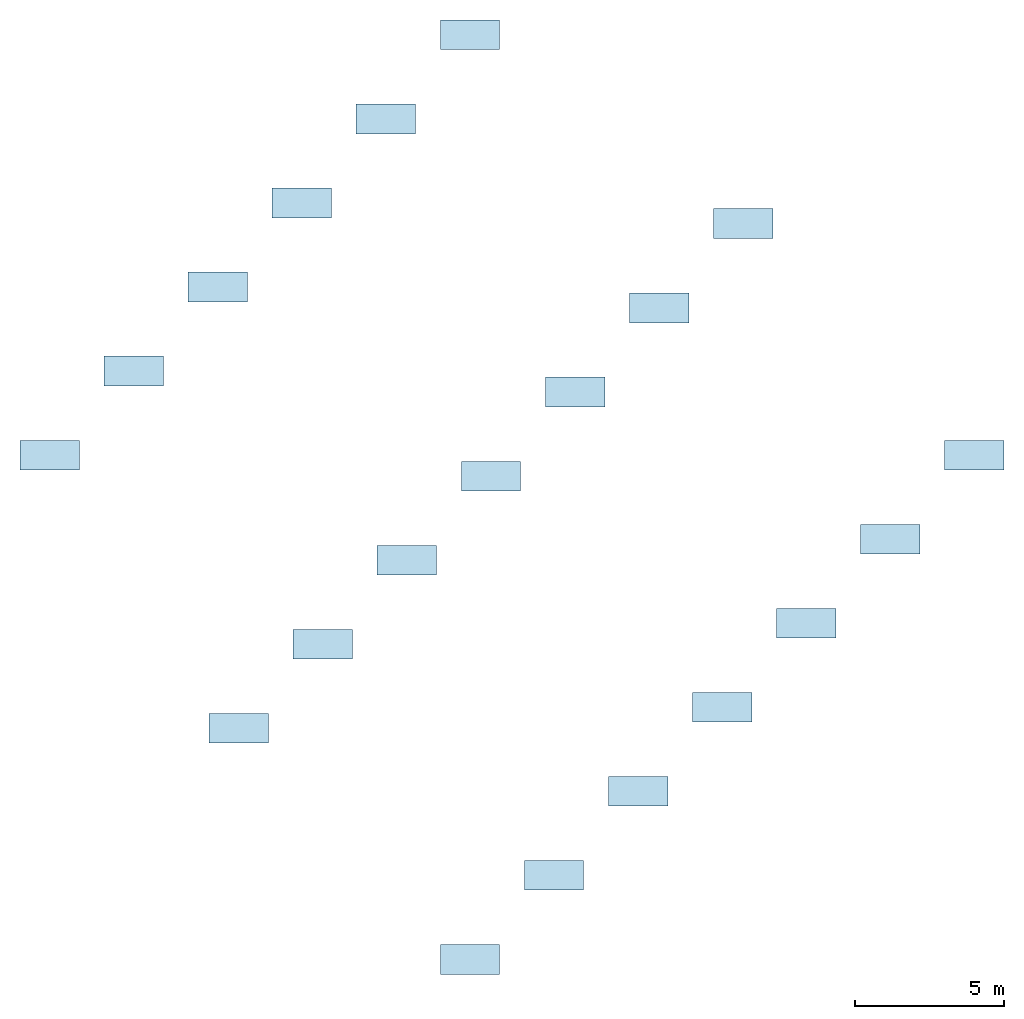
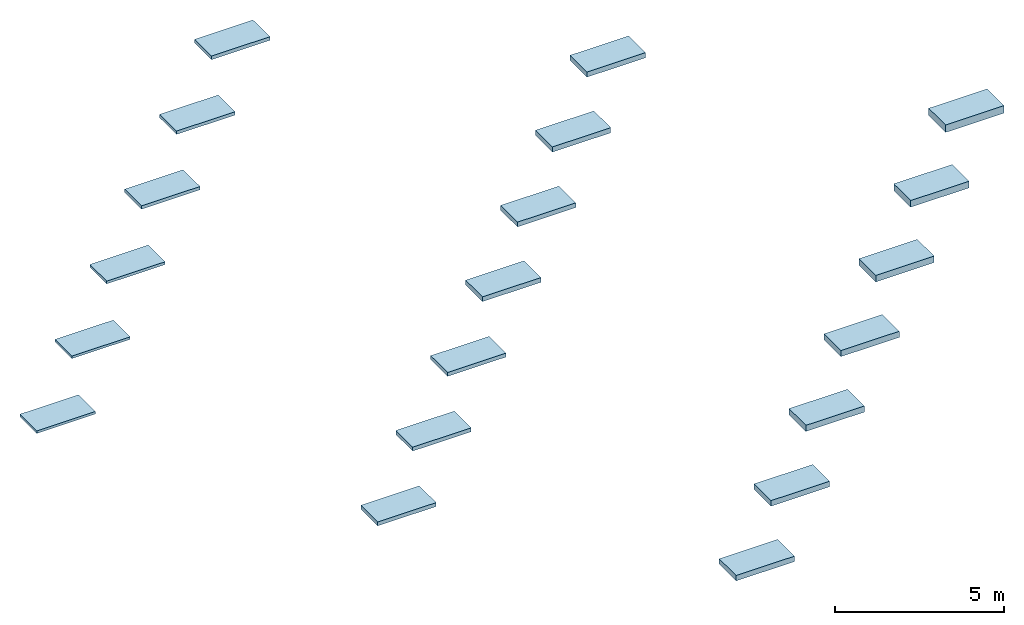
# One storey: 20 slabs, 20 elements without a shape of their own.
"""IFC2X3 building model written with IfcOpenShell, lengths in millimetres."""

import ifcopenshell
import ifcopenshell.guid

model = None  # the IFC model being written
_history = None  # IfcOwnerHistory: only IFC2X3 demands one
_inside = {}  # id of a spatial element -> (the spatial element, [elements in it])
_under = {}  # id of a project, library or spatial element -> (it, [spatial elements below it])
_declared = {}  # id of a project -> (the project, [libraries it declares])
_typed = {}  # id of a type object -> (the type object, [elements of that type])
_made_of = {}  # id of a material, layer set ... -> (it, [elements and type objects made of it])


def new_model(schema):
    """Start an empty IFC model of exactly this schema.

    Asked for "IFC4X3", IfcOpenShell would pick the latest addendum, in which some entities
    have other attributes; the version numbers below select the first issue.
    IFC2X3 requires an IfcOwnerHistory on every rooted entity: one is made here for all.
    """
    global model, _history
    if schema == "IFC4X3":
        model = ifcopenshell.file(schema_version=(4, 3, 0, 0))
    else:
        model = ifcopenshell.file(schema=schema)
    _inside.clear()
    _under.clear()
    _declared.clear()
    _typed.clear()
    _made_of.clear()
    _history = None
    if model.schema == "IFC2X3":
        org = make("IfcOrganization", Name="unknown")
        user = make(
            "IfcPersonAndOrganization",
            ThePerson=make("IfcPerson", FamilyName="unknown"),
            TheOrganization=org,
        )
        app = make(
            "IfcApplication",
            ApplicationDeveloper=org,
            Version="unknown",
            ApplicationFullName="unknown",
            ApplicationIdentifier="unknown",
        )
        _history = make(
            "IfcOwnerHistory",
            OwningUser=user,
            OwningApplication=app,
            ChangeAction="ADDED",
            CreationDate=0,
        )
    return model


def make(cls, **values):
    """One entity of the class cls with the attributes given. An attribute that is None is left unset."""
    return model.create_entity(
        cls, **{name: value for name, value in values.items() if value is not None}
    )


def entity(cls, *values):
    """Any entity or typed value of the class cls, its attributes in the order of the schema. None: left unset."""
    e = model.create_entity(cls)
    for i, value in enumerate(values):
        if value is not None:
            e[i] = value
    return e


def rooted(cls, **values):
    """An entity with a GlobalId (a new one), such as an element, a storey or a relation."""
    return make(cls, GlobalId=ifcopenshell.guid.new(), OwnerHistory=_history, **values)


def si_unit(unit_type, name, prefix=None):
    """IfcSIUnit, for example si_unit("LENGTHUNIT", "METRE", prefix="MILLI")."""
    return make("IfcSIUnit", UnitType=unit_type, Prefix=prefix, Name=name)


def converted_unit(unit_type, name, factor, base, dimensions=None, offset=None):
    """IfcConversionBasedUnit, such as the inch: factor (a typed value) times the base unit."""
    return make(
        "IfcConversionBasedUnit"
        if offset is None
        else "IfcConversionBasedUnitWithOffset",
        ConversionOffset=offset,
        Dimensions=None
        if dimensions is None
        else entity("IfcDimensionalExponents", *dimensions),
        UnitType=unit_type,
        Name=name,
        ConversionFactor=make(
            "IfcMeasureWithUnit", ValueComponent=factor, UnitComponent=base
        ),
    )


def derived_unit(unit_type, elements):
    """IfcDerivedUnit: a product of units, each with its exponent."""
    return make(
        "IfcDerivedUnit",
        Elements=[
            make("IfcDerivedUnitElement", Unit=unit, Exponent=power)
            for unit, power in elements
        ],
        UnitType=unit_type,
    )


def assignment(units):
    """IfcUnitAssignment: the units of a project."""
    return None if units is None else make("IfcUnitAssignment", Units=units)


def point(xyz):
    """IfcCartesianPoint."""
    return None if xyz is None else make("IfcCartesianPoint", Coordinates=xyz)


def direction(xyz):
    """IfcDirection."""
    return None if xyz is None else make("IfcDirection", DirectionRatios=xyz)


def frame(location, z_axis=None, x_axis=None):
    """IfcAxis2Placement3D, a coordinate frame: its origin and axes. An axis left out is left unset."""
    return make(
        "IfcAxis2Placement3D",
        Location=point(location),
        Axis=direction(z_axis),
        RefDirection=direction(x_axis),
    )


def frame_2d(location, x_axis=None):
    """IfcAxis2Placement2D, a coordinate frame in the plane: its origin and x axis."""
    return make(
        "IfcAxis2Placement2D", Location=point(location), RefDirection=direction(x_axis)
    )


def origin():
    """The frame at (0, 0, 0) with its axes left unset."""
    return frame((0.0, 0.0, 0.0))


def origin_2d_with_axis():
    """The frame at (0, 0) in the plane with the x axis (1, 0) written out."""
    return frame_2d((0.0, 0.0), x_axis=(1.0, 0.0))


def place(relative_to, where):
    """IfcLocalPlacement: puts the frame where relative to a parent placement (None: the world)."""
    return make(
        "IfcLocalPlacement", PlacementRelTo=relative_to, RelativePlacement=where
    )


def context(
    kind, dimensions, precision=None, world=None, true_north=None, identifier=None
):
    """IfcGeometricRepresentationContext, for example the 3D "Model" context."""
    return make(
        "IfcGeometricRepresentationContext",
        ContextIdentifier=identifier,
        ContextType=kind,
        CoordinateSpaceDimension=dimensions,
        Precision=precision,
        WorldCoordinateSystem=world,
        TrueNorth=true_north,
    )


def subcontext(parent, identifier, kind, view, scale=None):
    """IfcGeometricRepresentationSubContext, for example "Body" below "Model"."""
    return make(
        "IfcGeometricRepresentationSubContext",
        ContextIdentifier=identifier,
        ContextType=kind,
        ParentContext=parent,
        TargetScale=scale,
        TargetView=view,
    )


def project(units=None, contexts=None):
    """IfcProject with its units and contexts."""
    return rooted(
        "IfcProject",
        Name="project",
        RepresentationContexts=contexts,
        UnitsInContext=assignment(units),
    )


def spatial(cls, under=None, at=None, **own):
    """A site, building, storey or space (cls), placed at a placement, below another one or the project."""
    s = rooted(cls, ObjectPlacement=at, **own)
    if under is not None:
        _under.setdefault(under.id(), (under, []))[1].append(s)
    return s


def profile(cls, at=None, kind="AREA", **sizes):
    """A parametric profile (cls). Its sizes go by their IFC names, for example OverallWidth=200.0."""
    return make(cls, ProfileType=kind, Position=at, **sizes)


def rectangle(**sizes):
    """IfcRectangleProfileDef."""
    return profile("IfcRectangleProfileDef", **sizes)


def extrude(swept, where, along, depth):
    """IfcExtrudedAreaSolid: the profile swept, set in the frame where, extruded along a direction by depth."""
    return make(
        "IfcExtrudedAreaSolid",
        SweptArea=swept,
        Position=where,
        ExtrudedDirection=direction(along),
        Depth=depth,
    )


def shape(context_of_items, identifier, shape_type, items):
    """IfcShapeRepresentation: the items that make up one representation, for example the "Body"."""
    return make(
        "IfcShapeRepresentation",
        ContextOfItems=context_of_items,
        RepresentationIdentifier=identifier,
        RepresentationType=shape_type,
        Items=items,
    )


def material(Name=None, Category=None):
    """IfcMaterial."""
    return make("IfcMaterial", Name=Name, Category=Category)


def layer(
    of_material, thickness, ventilated=None, Name=None, Category=None, Priority=None
):
    """IfcMaterialLayer: one layer of a wall or slab, of a material (None: an air gap)."""
    return make(
        "IfcMaterialLayer",
        Material=of_material,
        LayerThickness=thickness,
        IsVentilated=ventilated,
        Name=Name,
        Category=Category,
        Priority=Priority,
    )


def layer_set(layers, Name=None):
    """IfcMaterialLayerSet."""
    return make("IfcMaterialLayerSet", MaterialLayers=layers, LayerSetName=Name)


def made_of(thing, what):
    """Note that an element or type object is made of a material, layer set ...; save() writes the relation."""
    if what is not None:
        _made_of.setdefault(what.id(), (what, []))[1].append(thing)
    return thing


def element(
    cls,
    number,
    at=None,
    inside=None,
    cuts=None,
    type_object=None,
    material=None,
    context=None,
    identifier="Body",
    shape_type=None,
    held_by="IfcProductDefinitionShape",
    body=None,
    shapes=None,
    **own,
):
    """One element of the class cls, such as IfcWall. Its Tag is "e" and its number.

    at: its placement. inside: the storey or other place that contains it. cuts: it is an
    opening in that element (IfcRelVoidsElement). A single representation is given by context,
    identifier, shape_type and body (its items); several are given by shapes. held_by: the class
    of the entity that holds the representations. save() writes the other relations.
    """
    e = rooted(cls, Tag="e%d" % number, ObjectPlacement=at, **own)
    if body is not None:
        shapes = [shape(context, identifier, shape_type, body)]
    if shapes is not None:
        e.Representation = make(held_by, Representations=shapes)
    if inside is not None:
        _inside.setdefault(inside.id(), (inside, []))[1].append(e)
    if cuts is not None:
        rooted(
            "IfcRelVoidsElement", RelatingBuildingElement=cuts, RelatedOpeningElement=e
        )
    if type_object is not None:
        _typed.setdefault(type_object.id(), (type_object, []))[1].append(e)
    return made_of(e, material)


def aggregate(whole, parts):
    """IfcRelAggregates: a whole, such as a stair, and the parts it consists of."""
    return rooted("IfcRelAggregates", RelatingObject=whole, RelatedObjects=parts)


def save(model, path):
    """Write the relations noted so far, then the file.

    IfcRelAggregates (storeys below a building ...), IfcRelContainedInSpatialStructure (elements
    in a storey), IfcRelDefinesByType, IfcRelAssociatesMaterial and IfcRelDeclares: one each for
    every whole, place, type object, material and project.
    """
    for whole, parts in _under.values():
        aggregate(whole, parts)
    for where, things in _inside.values():
        rooted(
            "IfcRelContainedInSpatialStructure",
            RelatedElements=things,
            RelatingStructure=where,
        )
    for kind, things in _typed.values():
        rooted("IfcRelDefinesByType", RelatedObjects=things, RelatingType=kind)
    for what, things in _made_of.values():
        rooted("IfcRelAssociatesMaterial", RelatedObjects=things, RelatingMaterial=what)
    for by, libraries in _declared.values():
        rooted("IfcRelDeclares", RelatingContext=by, RelatedDefinitions=libraries)
    model.write(path)


model = new_model("IFC2X3")

# Units and contexts
model_context = context("Model", 3, precision=0.01, world=origin(), true_north=direction((6.12303176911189e-17, 1.0)))
context_of_model = context(None, 3, precision=0.01, world=origin(), true_north=direction((6.12303176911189e-17, 1.0)))
body_context = subcontext(model_context, "Body", "Model", "MODEL_VIEW")
ifc_project = project(units=[si_unit("LENGTHUNIT", "METRE", prefix="MILLI"), si_unit("AREAUNIT", "SQUARE_METRE"), si_unit("VOLUMEUNIT", "CUBIC_METRE"), converted_unit("PLANEANGLEUNIT", "DEGREE", entity("IfcRatioMeasure", 0.0174532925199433), si_unit("PLANEANGLEUNIT", "RADIAN"), dimensions=[0, 0, 0, 0, 0, 0, 0]), si_unit("MASSUNIT", "GRAM", prefix="KILO"), derived_unit("MASSDENSITYUNIT", [(si_unit("MASSUNIT", "GRAM", prefix="KILO"), 1), (si_unit("LENGTHUNIT", "METRE"), -3)]), si_unit("TIMEUNIT", "SECOND"), si_unit("FREQUENCYUNIT", "HERTZ"), si_unit("THERMODYNAMICTEMPERATUREUNIT", "DEGREE_CELSIUS"), derived_unit("THERMALTRANSMITTANCEUNIT", [(si_unit("MASSUNIT", "GRAM", prefix="KILO"), 1), (si_unit("THERMODYNAMICTEMPERATUREUNIT", "KELVIN"), -1), (si_unit("TIMEUNIT", "SECOND"), -3)]), derived_unit("VOLUMETRICFLOWRATEUNIT", [(si_unit("LENGTHUNIT", "METRE"), 3), (si_unit("TIMEUNIT", "SECOND"), -1)]), si_unit("ELECTRICCURRENTUNIT", "AMPERE"), si_unit("ELECTRICVOLTAGEUNIT", "VOLT"), si_unit("POWERUNIT", "WATT"), si_unit("FORCEUNIT", "NEWTON", prefix="KILO"), si_unit("ILLUMINANCEUNIT", "LUX"), si_unit("LUMINOUSFLUXUNIT", "LUMEN"), si_unit("LUMINOUSINTENSITYUNIT", "CANDELA"), derived_unit("USERDEFINED", [(si_unit("MASSUNIT", "GRAM", prefix="KILO"), -1), (si_unit("LENGTHUNIT", "METRE"), -2), (si_unit("TIMEUNIT", "SECOND"), 3), (si_unit("LUMINOUSFLUXUNIT", "LUMEN"), 1)]), derived_unit("LINEARVELOCITYUNIT", [(si_unit("LENGTHUNIT", "METRE"), 1), (si_unit("TIMEUNIT", "SECOND"), -1)]), si_unit("PRESSUREUNIT", "PASCAL"), derived_unit("USERDEFINED", [(si_unit("LENGTHUNIT", "METRE"), -2), (si_unit("MASSUNIT", "GRAM", prefix="KILO"), 1), (si_unit("TIMEUNIT", "SECOND"), -2)])], contexts=[model_context, context_of_model])

# Site, building, storey
site_placement = place(None, origin())
site = spatial("IfcSite", under=ifc_project, at=site_placement, Name="Default", CompositionType="ELEMENT")
building_placement = place(site_placement, origin())
building = spatial("IfcBuilding", under=site, at=building_placement, CompositionType="ELEMENT")
storey_placement = place(building_placement, frame((0.0, 0.0, 2500.0)))
storey = spatial("IfcBuildingStorey", under=building, at=storey_placement, Name="Lengte", CompositionType="ELEMENT", Elevation=2500.0)

# Roof, slab
roof_1_placement = place(storey_placement, frame((-3133.09589603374, 4860.807761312, 0.0)))
roof_1 = element("IfcRoof", 1, at=roof_1_placement, inside=storey, Name="Basic Roof:NLRS_27_RO_Naturoll 035_90x380x7600mm", ObjectType="Basic Roof:NLRS_27_RO_Naturoll 035_90x380x7600mm", ShapeType="NOTDEFINED")
ifc_material = material(Name="Knauf Insulation_Ecose® glaswol_naturoll 035")
ifc_layer_1 = layer(ifc_material, 90.0)
ifc_layer_set_1 = layer_set([ifc_layer_1], Name="Basic Roof:NLRS_27_RO_Naturoll 035_90x380x7600mm")
slab_1_placement = place(roof_1_placement, origin())
slab_1 = element("IfcSlab", 2, at=slab_1_placement, material=ifc_layer_set_1, Name="Basic Roof:NLRS_27_RO_Naturoll 035_90x380x7600mm", ObjectType="Basic Roof:NLRS_27_RO_Naturoll 035_90x380x7600mm", PredefinedType="ROOF", context=body_context, shape_type="SweptSolid", body=[
    extrude(rectangle(XDim=2000.0, YDim=1000.0, at=frame_2d((0.0, -2.55795384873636e-13), x_axis=(1.0, 0.0))), frame((1000.0, 500.0, 0.0)), (0.0, 0.0, 1.0), 90.0000000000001),
])
aggregate(roof_1, [slab_1])

roof_2_placement = place(storey_placement, frame((-304.668771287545, 7689.23488605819, 0.0)))
roof_2 = element("IfcRoof", 3, at=roof_2_placement, inside=storey, Name="Basic Roof:NLRS_27_RO_Naturoll 035_90x580x7600mm", ObjectType="Basic Roof:NLRS_27_RO_Naturoll 035_90x580x7600mm", ShapeType="NOTDEFINED")
ifc_layer_2 = layer(ifc_material, 90.0)
ifc_layer_set_2 = layer_set([ifc_layer_2], Name="Basic Roof:NLRS_27_RO_Naturoll 035_90x580x7600mm")
slab_2_placement = place(roof_2_placement, origin())
slab_2 = element("IfcSlab", 4, at=slab_2_placement, material=ifc_layer_set_2, Name="Basic Roof:NLRS_27_RO_Naturoll 035_90x580x7600mm", ObjectType="Basic Roof:NLRS_27_RO_Naturoll 035_90x580x7600mm", PredefinedType="ROOF", context=body_context, shape_type="SweptSolid", body=[
    extrude(rectangle(XDim=2000.0, YDim=1000.0, at=origin_2d_with_axis()), frame((1000.0, 500.0, 0.0)), (0.0, 0.0, 1.0), 90.0000000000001),
])
aggregate(roof_2, [slab_2])

roof_3_placement = place(storey_placement, frame((2523.75835345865, 10517.6620108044, 0.0)))
roof_3 = element("IfcRoof", 5, at=roof_3_placement, inside=storey, Name="Basic Roof:NLRS_27_RO_Naturoll 035_100x580x7400mm", ObjectType="Basic Roof:NLRS_27_RO_Naturoll 035_100x580x7400mm", ShapeType="NOTDEFINED")
ifc_layer_3 = layer(ifc_material, 100.0)
ifc_layer_set_3 = layer_set([ifc_layer_3], Name="Basic Roof:NLRS_27_RO_Naturoll 035_100x580x7400mm")
slab_3_placement = place(roof_3_placement, origin())
slab_3 = element("IfcSlab", 6, at=slab_3_placement, material=ifc_layer_set_3, Name="Basic Roof:NLRS_27_RO_Naturoll 035_100x580x7400mm", ObjectType="Basic Roof:NLRS_27_RO_Naturoll 035_100x580x7400mm", PredefinedType="ROOF", context=body_context, shape_type="SweptSolid", body=[
    extrude(rectangle(XDim=2000.0, YDim=1000.0, at=origin_2d_with_axis()), frame((1000.0, 500.0, 0.0)), (0.0, 0.0, 1.0), 100.0),
])
aggregate(roof_3, [slab_3])

roof_4_placement = place(storey_placement, frame((5352.18547820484, 13346.0891355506, 0.0)))
roof_4 = element("IfcRoof", 7, at=roof_4_placement, inside=storey, Name="Basic Roof:NLRS_27_RO_Naturoll 035_120x380x6200mm", ObjectType="Basic Roof:NLRS_27_RO_Naturoll 035_120x380x6200mm", ShapeType="NOTDEFINED")
ifc_layer_4 = layer(ifc_material, 120.0)
ifc_layer_set_4 = layer_set([ifc_layer_4], Name="Basic Roof:NLRS_27_RO_Naturoll 035_120x380x6200mm")
slab_4_placement = place(roof_4_placement, origin())
slab_4 = element("IfcSlab", 8, at=slab_4_placement, material=ifc_layer_set_4, Name="Basic Roof:NLRS_27_RO_Naturoll 035_120x380x6200mm", ObjectType="Basic Roof:NLRS_27_RO_Naturoll 035_120x380x6200mm", PredefinedType="ROOF", context=body_context, shape_type="SweptSolid", body=[
    extrude(rectangle(XDim=2000.0, YDim=1000.0, at=frame_2d((5.6843418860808e-13, 0.0), x_axis=(1.0, 0.0))), frame((1000.0, 500.0, 0.0)), (0.0, 0.0, 1.0), 120.0),
])
aggregate(roof_4, [slab_4])

roof_5_placement = place(storey_placement, frame((8180.61260295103, 16174.5162602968, 0.0)))
roof_5 = element("IfcRoof", 9, at=roof_5_placement, inside=storey, Name="Basic Roof:NLRS_27_RO_Naturoll 035_120x580x6200mm", ObjectType="Basic Roof:NLRS_27_RO_Naturoll 035_120x580x6200mm", ShapeType="NOTDEFINED")
ifc_layer_5 = layer(ifc_material, 120.0)
ifc_layer_set_5 = layer_set([ifc_layer_5], Name="Basic Roof:NLRS_27_RO_Naturoll 035_120x580x6200mm")
slab_5_placement = place(roof_5_placement, origin())
slab_5 = element("IfcSlab", 10, at=slab_5_placement, material=ifc_layer_set_5, Name="Basic Roof:NLRS_27_RO_Naturoll 035_120x580x6200mm", ObjectType="Basic Roof:NLRS_27_RO_Naturoll 035_120x580x6200mm", PredefinedType="ROOF", context=body_context, shape_type="SweptSolid", body=[
    extrude(rectangle(XDim=2000.0, YDim=1000.0, at=frame_2d((5.6843418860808e-13, 0.0), x_axis=(1.0, 0.0))), frame((1000.0, 500.0, 0.0)), (0.0, 0.0, 1.0), 120.0),
])
aggregate(roof_5, [slab_5])

roof_6_placement = place(storey_placement, frame((11009.0397276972, 19002.9433850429, 0.0)))
roof_6 = element("IfcRoof", 11, at=roof_6_placement, inside=storey, Name="Basic Roof:NLRS_27_RO_Naturoll 035_130x590x5500mm", ObjectType="Basic Roof:NLRS_27_RO_Naturoll 035_130x590x5500mm", ShapeType="NOTDEFINED")
ifc_layer_6 = layer(ifc_material, 130.0)
ifc_layer_set_6 = layer_set([ifc_layer_6], Name="Basic Roof:NLRS_27_RO_Naturoll 035_130x590x5500mm")
slab_6_placement = place(roof_6_placement, origin())
slab_6 = element("IfcSlab", 12, at=slab_6_placement, material=ifc_layer_set_6, Name="Basic Roof:NLRS_27_RO_Naturoll 035_130x590x5500mm", ObjectType="Basic Roof:NLRS_27_RO_Naturoll 035_130x590x5500mm", PredefinedType="ROOF", context=body_context, shape_type="SweptSolid", body=[
    extrude(rectangle(XDim=2000.0, YDim=1000.0, at=frame_2d((1.08002495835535e-12, 0.0), x_axis=(1.0, 0.0))), frame((1000.0, 500.0, 0.0)), (0.0, 0.0, 1.0), 130.0),
])
aggregate(roof_6, [slab_6])

roof_7_placement = place(storey_placement, frame((3230.86513464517, -4331.58039411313, 0.0)))
roof_7 = element("IfcRoof", 13, at=roof_7_placement, inside=storey, Name="Basic Roof:NLRS_27_RO_Naturoll 035_140x380x5300mm", ObjectType="Basic Roof:NLRS_27_RO_Naturoll 035_140x380x5300mm", ShapeType="NOTDEFINED")
ifc_layer_7 = layer(ifc_material, 140.0)
ifc_layer_set_7 = layer_set([ifc_layer_7], Name="Basic Roof:NLRS_27_RO_Naturoll 035_140x380x5300mm")
slab_7_placement = place(roof_7_placement, origin())
slab_7 = element("IfcSlab", 14, at=slab_7_placement, material=ifc_layer_set_7, Name="Basic Roof:NLRS_27_RO_Naturoll 035_140x380x5300mm", ObjectType="Basic Roof:NLRS_27_RO_Naturoll 035_140x380x5300mm", PredefinedType="ROOF", context=body_context, shape_type="SweptSolid", body=[
    extrude(rectangle(XDim=2000.0, YDim=1000.0, at=origin_2d_with_axis()), frame((1000.0, 500.0, 0.0)), (0.0, 0.0, 1.0), 140.0),
])
aggregate(roof_7, [slab_7])

roof_8_placement = place(storey_placement, frame((6059.29225939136, -1503.15326936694, 0.0)))
roof_8 = element("IfcRoof", 15, at=roof_8_placement, inside=storey, Name="Basic Roof:NLRS_27_RO_Naturoll 035_140x580x5300mm", ObjectType="Basic Roof:NLRS_27_RO_Naturoll 035_140x580x5300mm", ShapeType="NOTDEFINED")
ifc_layer_8 = layer(ifc_material, 140.0)
ifc_layer_set_8 = layer_set([ifc_layer_8], Name="Basic Roof:NLRS_27_RO_Naturoll 035_140x580x5300mm")
slab_8_placement = place(roof_8_placement, origin())
slab_8 = element("IfcSlab", 16, at=slab_8_placement, material=ifc_layer_set_8, Name="Basic Roof:NLRS_27_RO_Naturoll 035_140x580x5300mm", ObjectType="Basic Roof:NLRS_27_RO_Naturoll 035_140x580x5300mm", PredefinedType="ROOF", context=body_context, shape_type="SweptSolid", body=[
    extrude(rectangle(XDim=2000.0, YDim=1000.0, at=origin_2d_with_axis()), frame((1000.0, 500.0, 0.0)), (0.0, 0.0, 1.0), 140.0),
])
aggregate(roof_8, [slab_8])

roof_9_placement = place(storey_placement, frame((8887.71938413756, 1325.27385537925, 0.0)))
roof_9 = element("IfcRoof", 17, at=roof_9_placement, inside=storey, Name="Basic Roof:NLRS_27_RO_Naturoll 035_140x600x5300mm", ObjectType="Basic Roof:NLRS_27_RO_Naturoll 035_140x600x5300mm", ShapeType="NOTDEFINED")
ifc_layer_9 = layer(ifc_material, 140.0)
ifc_layer_set_9 = layer_set([ifc_layer_9], Name="Basic Roof:NLRS_27_RO_Naturoll 035_140x600x5300mm")
slab_9_placement = place(roof_9_placement, origin())
slab_9 = element("IfcSlab", 18, at=slab_9_placement, material=ifc_layer_set_9, Name="Basic Roof:NLRS_27_RO_Naturoll 035_140x600x5300mm", ObjectType="Basic Roof:NLRS_27_RO_Naturoll 035_140x600x5300mm", PredefinedType="ROOF", context=body_context, shape_type="SweptSolid", body=[
    extrude(rectangle(XDim=2000.0, YDim=1000.0, at=origin_2d_with_axis()), frame((1000.0, 500.0, 0.0)), (0.0, 0.0, 1.0), 140.0),
])
aggregate(roof_9, [slab_9])

roof_10_placement = place(storey_placement, frame((11716.1465088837, 4153.70098012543, 0.0)))
roof_10 = element("IfcRoof", 19, at=roof_10_placement, inside=storey, Name="Basic Roof:NLRS_27_RO_Naturoll 035_170x380x4350mm", ObjectType="Basic Roof:NLRS_27_RO_Naturoll 035_170x380x4350mm", ShapeType="NOTDEFINED")
ifc_layer_10 = layer(ifc_material, 170.0)
ifc_layer_set_10 = layer_set([ifc_layer_10], Name="Basic Roof:NLRS_27_RO_Naturoll 035_170x380x4350mm")
slab_10_placement = place(roof_10_placement, origin())
slab_10 = element("IfcSlab", 20, at=slab_10_placement, material=ifc_layer_set_10, Name="Basic Roof:NLRS_27_RO_Naturoll 035_170x380x4350mm", ObjectType="Basic Roof:NLRS_27_RO_Naturoll 035_170x380x4350mm", PredefinedType="ROOF", context=body_context, shape_type="SweptSolid", body=[
    extrude(rectangle(XDim=2000.0, YDim=1000.0, at=frame_2d((1.08002495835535e-12, 0.0), x_axis=(1.0, 0.0))), frame((1000.0, 500.0, 0.0)), (0.0, 0.0, 1.0), 170.0),
])
aggregate(roof_10, [slab_10])

roof_11_placement = place(storey_placement, frame((14544.5736336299, 6982.12810487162, 0.0)))
roof_11 = element("IfcRoof", 21, at=roof_11_placement, inside=storey, Name="Basic Roof:NLRS_27_RO_Naturoll 035_170x580x4350mm", ObjectType="Basic Roof:NLRS_27_RO_Naturoll 035_170x580x4350mm", ShapeType="NOTDEFINED")
ifc_layer_11 = layer(ifc_material, 170.0)
ifc_layer_set_11 = layer_set([ifc_layer_11], Name="Basic Roof:NLRS_27_RO_Naturoll 035_170x580x4350mm")
slab_11_placement = place(roof_11_placement, origin())
slab_11 = element("IfcSlab", 22, at=slab_11_placement, material=ifc_layer_set_11, Name="Basic Roof:NLRS_27_RO_Naturoll 035_170x580x4350mm", ObjectType="Basic Roof:NLRS_27_RO_Naturoll 035_170x580x4350mm", PredefinedType="ROOF", context=body_context, shape_type="SweptSolid", body=[
    extrude(rectangle(XDim=2000.0, YDim=1000.0, at=frame_2d((1.08002495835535e-12, 0.0), x_axis=(1.0, 0.0))), frame((1000.0, 500.0, 0.0)), (0.0, 0.0, 1.0), 170.0),
])
aggregate(roof_11, [slab_11])

roof_12_placement = place(storey_placement, frame((17373.0007583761, 9810.55522961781, 0.0)))
roof_12 = element("IfcRoof", 23, at=roof_12_placement, inside=storey, Name="Basic Roof:NLRS_27_RO_Naturoll 035_185x380x4000mm", ObjectType="Basic Roof:NLRS_27_RO_Naturoll 035_185x380x4000mm", ShapeType="NOTDEFINED")
ifc_layer_12 = layer(ifc_material, 185.0)
ifc_layer_set_12 = layer_set([ifc_layer_12], Name="Basic Roof:NLRS_27_RO_Naturoll 035_185x380x4000mm")
slab_12_placement = place(roof_12_placement, origin())
slab_12 = element("IfcSlab", 24, at=slab_12_placement, material=ifc_layer_set_12, Name="Basic Roof:NLRS_27_RO_Naturoll 035_185x380x4000mm", ObjectType="Basic Roof:NLRS_27_RO_Naturoll 035_185x380x4000mm", PredefinedType="ROOF", context=body_context, shape_type="SweptSolid", body=[
    extrude(rectangle(XDim=2000.0, YDim=1000.0, at=frame_2d((1.08002495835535e-12, 0.0), x_axis=(1.0, 0.0))), frame((1000.0, 500.0, 0.0)), (0.0, 0.0, 1.0), 185.0),
])
aggregate(roof_12, [slab_12])

roof_13_placement = place(storey_placement, frame((13837.4668524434, -9281.32786241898, 0.0)))
roof_13 = element("IfcRoof", 25, at=roof_13_placement, inside=storey, Name="Basic Roof:NLRS_27_RO_Naturoll 035_200x580x3700mm", ObjectType="Basic Roof:NLRS_27_RO_Naturoll 035_200x580x3700mm", ShapeType="NOTDEFINED")
ifc_layer_13 = layer(ifc_material, 200.0)
ifc_layer_set_13 = layer_set([ifc_layer_13], Name="Basic Roof:NLRS_27_RO_Naturoll 035_200x580x3700mm")
slab_13_placement = place(roof_13_placement, origin())
slab_13 = element("IfcSlab", 26, at=slab_13_placement, material=ifc_layer_set_13, Name="Basic Roof:NLRS_27_RO_Naturoll 035_200x580x3700mm", ObjectType="Basic Roof:NLRS_27_RO_Naturoll 035_200x580x3700mm", PredefinedType="ROOF", context=body_context, shape_type="SweptSolid", body=[
    extrude(rectangle(XDim=2000.0, YDim=1000.0, at=frame_2d((1.08002495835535e-12, 0.0), x_axis=(1.0, 0.0))), frame((1000.0, 500.0, 0.0)), (0.0, 0.0, 1.0), 200.0),
])
aggregate(roof_13, [slab_13])

roof_14_placement = place(storey_placement, frame((16665.8939771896, -6452.9007376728, 0.0)))
roof_14 = element("IfcRoof", 27, at=roof_14_placement, inside=storey, Name="Basic Roof:NLRS_27_RO_Naturoll 035_220x380x3400mm", ObjectType="Basic Roof:NLRS_27_RO_Naturoll 035_220x380x3400mm", ShapeType="NOTDEFINED")
ifc_layer_14 = layer(ifc_material, 220.0)
ifc_layer_set_14 = layer_set([ifc_layer_14], Name="Basic Roof:NLRS_27_RO_Naturoll 035_220x380x3400mm")
slab_14_placement = place(roof_14_placement, origin())
slab_14 = element("IfcSlab", 28, at=slab_14_placement, material=ifc_layer_set_14, Name="Basic Roof:NLRS_27_RO_Naturoll 035_220x380x3400mm", ObjectType="Basic Roof:NLRS_27_RO_Naturoll 035_220x380x3400mm", PredefinedType="ROOF", context=body_context, shape_type="SweptSolid", body=[
    extrude(rectangle(XDim=2000.0, YDim=1000.0, at=frame_2d((1.08002495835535e-12, 0.0), x_axis=(1.0, 0.0))), frame((1000.0, 500.0, 0.0)), (0.0, 0.0, 1.0), 220.0),
])
aggregate(roof_14, [slab_14])

roof_15_placement = place(storey_placement, frame((19494.3211019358, -3624.47361292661, 0.0)))
roof_15 = element("IfcRoof", 29, at=roof_15_placement, inside=storey, Name="Basic Roof:NLRS_27_RO_Naturoll 035_220x580x3100mm", ObjectType="Basic Roof:NLRS_27_RO_Naturoll 035_220x580x3100mm", ShapeType="NOTDEFINED")
ifc_layer_15 = layer(ifc_material, 220.0)
ifc_layer_set_15 = layer_set([ifc_layer_15], Name="Basic Roof:NLRS_27_RO_Naturoll 035_220x580x3100mm")
slab_15_placement = place(roof_15_placement, origin())
slab_15 = element("IfcSlab", 30, at=slab_15_placement, material=ifc_layer_set_15, Name="Basic Roof:NLRS_27_RO_Naturoll 035_220x580x3100mm", ObjectType="Basic Roof:NLRS_27_RO_Naturoll 035_220x580x3100mm", PredefinedType="ROOF", context=body_context, shape_type="SweptSolid", body=[
    extrude(rectangle(XDim=2000.0, YDim=1000.0, at=frame_2d((2.1600499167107e-12, 0.0), x_axis=(1.0, 0.0))), frame((1000.0, 500.0, 0.0)), (0.0, 0.0, 1.0), 220.0),
])
aggregate(roof_15, [slab_15])

roof_16_placement = place(storey_placement, frame((22322.748226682, -796.046488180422, 0.0)))
roof_16 = element("IfcRoof", 31, at=roof_16_placement, inside=storey, Name="Basic Roof:NLRS_27_RO_Naturoll 035_235x580x3100mm", ObjectType="Basic Roof:NLRS_27_RO_Naturoll 035_235x580x3100mm", ShapeType="NOTDEFINED")
ifc_layer_16 = layer(ifc_material, 235.0)
ifc_layer_set_16 = layer_set([ifc_layer_16], Name="Basic Roof:NLRS_27_RO_Naturoll 035_235x580x3100mm")
slab_16_placement = place(roof_16_placement, origin())
slab_16 = element("IfcSlab", 32, at=slab_16_placement, material=ifc_layer_set_16, Name="Basic Roof:NLRS_27_RO_Naturoll 035_235x580x3100mm", ObjectType="Basic Roof:NLRS_27_RO_Naturoll 035_235x580x3100mm", PredefinedType="ROOF", context=body_context, shape_type="SweptSolid", body=[
    extrude(rectangle(XDim=2000.0, YDim=1000.0, at=frame_2d((-2.1600499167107e-12, 0.0), x_axis=(1.0, 0.0))), frame((1000.0, 500.0, 0.0)), (0.0, 0.0, 1.0), 235.0),
])
aggregate(roof_16, [slab_16])

roof_17_placement = place(storey_placement, frame((25151.1753514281, 2032.38063656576, 0.0)))
roof_17 = element("IfcRoof", 33, at=roof_17_placement, inside=storey, Name="Basic Roof:NLRS_27_RO_Naturoll 035_240x580x3100mm", ObjectType="Basic Roof:NLRS_27_RO_Naturoll 035_240x580x3100mm", ShapeType="NOTDEFINED")
ifc_layer_17 = layer(ifc_material, 240.0)
ifc_layer_set_17 = layer_set([ifc_layer_17], Name="Basic Roof:NLRS_27_RO_Naturoll 035_240x580x3100mm")
slab_17_placement = place(roof_17_placement, origin())
slab_17 = element("IfcSlab", 34, at=slab_17_placement, material=ifc_layer_set_17, Name="Basic Roof:NLRS_27_RO_Naturoll 035_240x580x3100mm", ObjectType="Basic Roof:NLRS_27_RO_Naturoll 035_240x580x3100mm", PredefinedType="ROOF", context=body_context, shape_type="SweptSolid", body=[
    extrude(rectangle(XDim=2000.0, YDim=1000.0, at=frame_2d((2.1600499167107e-12, 0.0), x_axis=(1.0, 0.0))), frame((1000.0, 500.0, 0.0)), (0.0, 0.0, 1.0), 240.0),
])
aggregate(roof_17, [slab_17])

roof_18_placement = place(storey_placement, frame((27979.6024761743, 4860.80776131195, 0.0)))
roof_18 = element("IfcRoof", 35, at=roof_18_placement, inside=storey, Name="Basic Roof:NLRS_27_RO_Naturoll 035_270x590x2600mm", ObjectType="Basic Roof:NLRS_27_RO_Naturoll 035_270x590x2600mm", ShapeType="NOTDEFINED")
ifc_layer_18 = layer(ifc_material, 270.0)
ifc_layer_set_18 = layer_set([ifc_layer_18], Name="Basic Roof:NLRS_27_RO_Naturoll 035_270x590x2600mm")
slab_18_placement = place(roof_18_placement, origin())
slab_18 = element("IfcSlab", 36, at=slab_18_placement, material=ifc_layer_set_18, Name="Basic Roof:NLRS_27_RO_Naturoll 035_270x590x2600mm", ObjectType="Basic Roof:NLRS_27_RO_Naturoll 035_270x590x2600mm", PredefinedType="ROOF", context=body_context, shape_type="SweptSolid", body=[
    extrude(rectangle(XDim=2000.0, YDim=1000.0, at=frame_2d((-2.1600499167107e-12, 0.0), x_axis=(1.0, 0.0))), frame((1000.0, 500.0, 0.0)), (0.0, 0.0, 1.0), 270.0),
])
aggregate(roof_18, [slab_18])

roof_19_placement = place(storey_placement, frame((11009.0397276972, -12109.7549871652, 0.0)))
roof_19 = element("IfcRoof", 37, at=roof_19_placement, inside=storey, Name="Basic Roof:NLRS_27_RO_Naturoll 035_195x580x3800mm", ObjectType="Basic Roof:NLRS_27_RO_Naturoll 035_195x580x3800mm", ShapeType="NOTDEFINED")
ifc_layer_19 = layer(ifc_material, 195.0)
ifc_layer_set_19 = layer_set([ifc_layer_19], Name="Basic Roof:NLRS_27_RO_Naturoll 035_195x580x3800mm")
slab_19_placement = place(roof_19_placement, origin())
slab_19 = element("IfcSlab", 38, at=slab_19_placement, material=ifc_layer_set_19, Name="Basic Roof:NLRS_27_RO_Naturoll 035_195x580x3800mm", ObjectType="Basic Roof:NLRS_27_RO_Naturoll 035_195x580x3800mm", PredefinedType="ROOF", context=body_context, shape_type="SweptSolid", body=[
    extrude(rectangle(XDim=2000.0, YDim=1000.0, at=frame_2d((1.08002495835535e-12, 0.0), x_axis=(1.0, 0.0))), frame((1000.0, 500.0, 0.0)), (0.0, 0.0, 1.0), 195.0),
])
aggregate(roof_19, [slab_19])

roof_20_placement = place(storey_placement, frame((20201.4278831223, 12653.982354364, 0.0)))
roof_20 = element("IfcRoof", 39, at=roof_20_placement, inside=storey, Name="Basic Roof:NLRS_27_RO_Naturoll 035_185x580x4000mm", ObjectType="Basic Roof:NLRS_27_RO_Naturoll 035_185x580x4000mm", ShapeType="NOTDEFINED")
ifc_layer_20 = layer(ifc_material, 185.0)
ifc_layer_set_20 = layer_set([ifc_layer_20], Name="Basic Roof:NLRS_27_RO_Naturoll 035_185x580x4000mm")
slab_20_placement = place(roof_20_placement, origin())
slab_20 = element("IfcSlab", 40, at=slab_20_placement, material=ifc_layer_set_20, Name="Basic Roof:NLRS_27_RO_Naturoll 035_185x580x4000mm", ObjectType="Basic Roof:NLRS_27_RO_Naturoll 035_185x580x4000mm", PredefinedType="ROOF", context=body_context, shape_type="SweptSolid", body=[
    extrude(rectangle(XDim=2000.0, YDim=1000.0, at=frame_2d((2.1600499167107e-12, 0.0), x_axis=(1.0, 0.0))), frame((1000.0, 500.0, 0.0)), (0.0, 0.0, 1.0), 185.0),
])
aggregate(roof_20, [slab_20])

save(model, "model.ifc")
